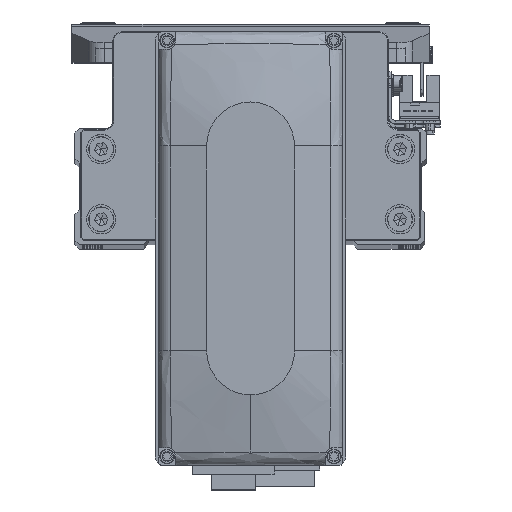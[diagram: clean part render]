
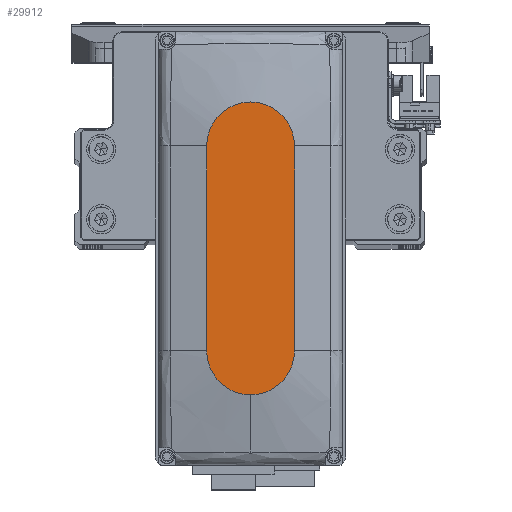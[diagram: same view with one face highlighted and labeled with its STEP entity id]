
A CAD part, top view. The second image highlights one B-rep face of the part: STEP entity #29912.
In plain terms, the highlighted planar face has unit normal (0, 0, 1).
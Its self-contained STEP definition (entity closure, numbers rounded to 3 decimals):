
#1270 = CARTESIAN_POINT ( 'NONE',  ( -35., 15., 35. ) ) ;
#1445 = ORIENTED_EDGE ( 'NONE', *, *, #16994, .T. ) ;
#4899 = DIRECTION ( 'NONE',  ( 0., 0., 1. ) ) ;
#7110 = EDGE_CURVE ( 'NONE', #44897, #12196, #33577, .T. ) ;
#9456 = CARTESIAN_POINT ( 'NONE',  ( -35., -15., 35. ) ) ;
#9717 = CARTESIAN_POINT ( 'NONE',  ( 0., 0., 35. ) ) ;
#11190 = CARTESIAN_POINT ( 'NONE',  ( -35., -15., 35. ) ) ;
#12196 = VERTEX_POINT ( 'NONE', #37299 ) ;
#12242 = DIRECTION ( 'NONE',  ( 1., 0., 0. ) ) ;
#13146 = EDGE_LOOP ( 'NONE', ( #38650, #24152, #18636, #1445, #44293 ) ) ;
#14414 = EDGE_CURVE ( 'NONE', #33158, #44897, #19505, .T. ) ;
#15643 = DIRECTION ( 'NONE',  ( -1., 0., 0. ) ) ;
#15844 = CARTESIAN_POINT ( 'NONE',  ( 35., 0., 35. ) ) ;
#15845 = CIRCLE ( 'NONE', #42243, 15. ) ;
#16994 = EDGE_CURVE ( 'NONE', #21081, #33158, #15845, .T. ) ;
#17208 = CARTESIAN_POINT ( 'NONE',  ( 50., 0., 35. ) ) ;
#18636 = ORIENTED_EDGE ( 'NONE', *, *, #22241, .T. ) ;
#19258 = DIRECTION ( 'NONE',  ( 1., 0., 0. ) ) ;
#19505 = CIRCLE ( 'NONE', #45910, 15. ) ;
#20416 = AXIS2_PLACEMENT_3D ( 'NONE', #9717, #24108, #38512 ) ;
#21081 = VERTEX_POINT ( 'NONE', #24775 ) ;
#22082 = VERTEX_POINT ( 'NONE', #11190 ) ;
#22241 = EDGE_CURVE ( 'NONE', #22082, #21081, #41163, .T. ) ;
#23485 = AXIS2_PLACEMENT_3D ( 'NONE', #30159, #44577, #12242 ) ;
#23634 = CARTESIAN_POINT ( 'NONE',  ( 35., 15., 35. ) ) ;
#23839 = DIRECTION ( 'NONE',  ( 1., 0., 0. ) ) ;
#24108 = DIRECTION ( 'NONE',  ( 0., 0., 1. ) ) ;
#24152 = ORIENTED_EDGE ( 'NONE', *, *, #31996, .T. ) ;
#24775 = CARTESIAN_POINT ( 'NONE',  ( 35., -15., 35. ) ) ;
#27648 = FACE_OUTER_BOUND ( 'NONE', #13146, .T. ) ;
#29542 = VECTOR ( 'NONE', #23839, 1000. ) ;
#29912 = ADVANCED_FACE ( 'NONE', ( #27648 ), #42067, .T. ) ;
#30159 = CARTESIAN_POINT ( 'NONE',  ( -35., 0., 35. ) ) ;
#30233 = DIRECTION ( 'NONE',  ( 0., 0., 1. ) ) ;
#31996 = EDGE_CURVE ( 'NONE', #12196, #22082, #43866, .T. ) ;
#33158 = VERTEX_POINT ( 'NONE', #17208 ) ;
#33577 = LINE ( 'NONE', #1270, #38218 ) ;
#37208 = CARTESIAN_POINT ( 'NONE',  ( 35., 0., 35. ) ) ;
#37299 = CARTESIAN_POINT ( 'NONE',  ( -35., 15., 35. ) ) ;
#38218 = VECTOR ( 'NONE', #15643, 1000. ) ;
#38512 = DIRECTION ( 'NONE',  ( 1., 0., 0. ) ) ;
#38650 = ORIENTED_EDGE ( 'NONE', *, *, #7110, .T. ) ;
#41163 = LINE ( 'NONE', #9456, #29542 ) ;
#42067 = PLANE ( 'NONE',  #20416 ) ;
#42243 = AXIS2_PLACEMENT_3D ( 'NONE', #15844, #30233, #44645 ) ;
#43866 = CIRCLE ( 'NONE', #23485, 15. ) ;
#44293 = ORIENTED_EDGE ( 'NONE', *, *, #14414, .T. ) ;
#44577 = DIRECTION ( 'NONE',  ( 0., 0., 1. ) ) ;
#44645 = DIRECTION ( 'NONE',  ( 1., 0., 0. ) ) ;
#44897 = VERTEX_POINT ( 'NONE', #23634 ) ;
#45910 = AXIS2_PLACEMENT_3D ( 'NONE', #37208, #4899, #19258 ) ;
